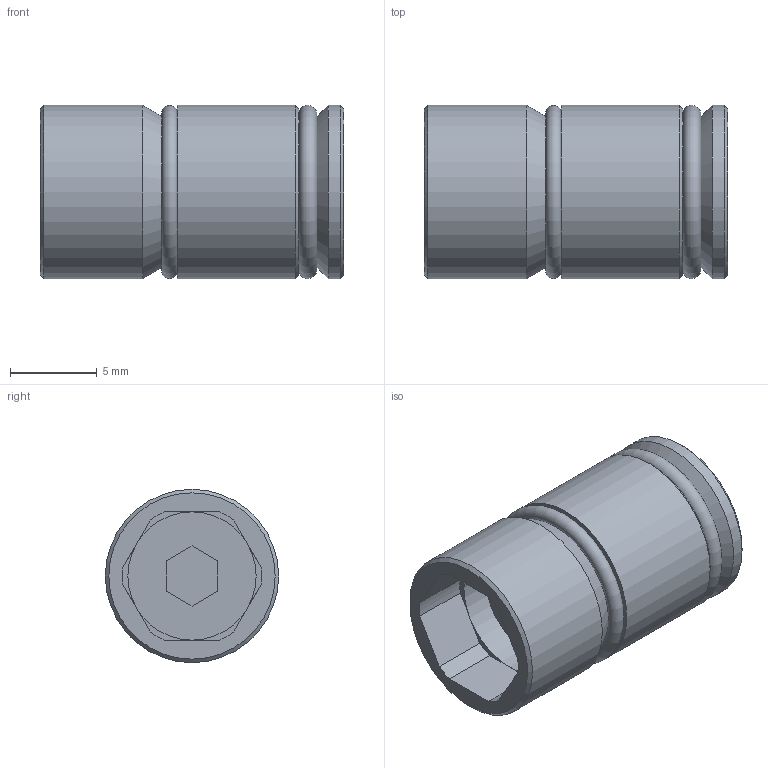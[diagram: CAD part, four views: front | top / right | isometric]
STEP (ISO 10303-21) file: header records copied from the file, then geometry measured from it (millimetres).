
FILE_DESCRIPTION( ( 'STEP AP214' ), '1' );
FILE_NAME( 'p:/temp/worker_256/temp/exporttempdir_3268_496_HAI8F/format_0/TRI-10L.stp', '2021-02-05T19:26:42', ( 'License CC BY-ND 4.0' ), ( 'CADENAS' ), ' ', 'PARTsolutions', ' ' );
FILE_SCHEMA( ( 'AUTOMOTIVE_DESIGN { 1 0 10303 214 1 1 1 1 }' ) );
Length unit declared in the file: millimetre
Products named in the file (1): _TRI-10L
Bounding box: 17.5 x 10 x 10 mm (x, y, z)
Volume: 1082.6 mm3; surface area: 952.6 mm2
Topology: 1 solids, 1 shells, 41 faces, 91 edges, 56 vertices
Faces by surface type: plane 24, cylinder 10, cone 5, torus 2
Full cylindrical faces by diameter (mm): 7.4 x1, 10 x3
Entity records: 1422 total; most frequent: DIRECTION 196, CARTESIAN_POINT 180, ORIENTED_EDGE 160, EDGE_CURVE 80, AXIS2_PLACEMENT_3D 74, VERTEX_POINT 58, EDGE_LOOP 56, LINE 48
